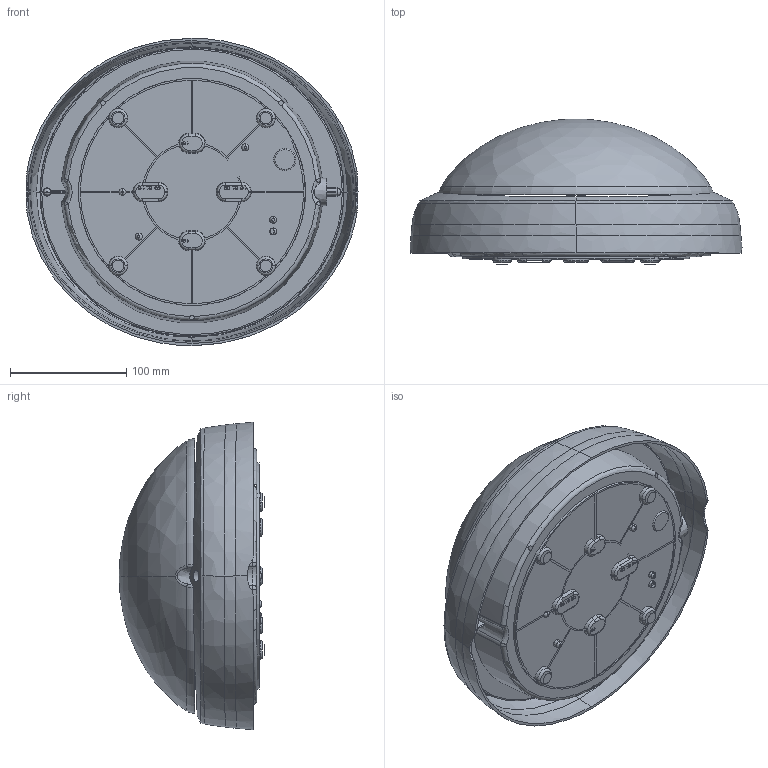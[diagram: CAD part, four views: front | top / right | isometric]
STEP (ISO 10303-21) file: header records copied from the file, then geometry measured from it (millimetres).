
FILE_DESCRIPTION((''),'2;1');
FILE_NAME('AIRY_TONDA_300','2025-07-29T10:00:14',('Minervini'),(''),'CREO PARAMETRIC BY PTC INC, 2025010','CREO PARAMETRIC BY PTC INC, 2025010','');
FILE_SCHEMA(('CONFIG_CONTROL_DESIGN'));
Length unit declared in the file: millimetre
Products named in the file (1): AIRY_TONDA_300
Bounding box: 286.13 x 125.5 x 265 mm (x, y, z)
Surface area: 273038.1 mm2 (no closed solid volume)
Topology: 0 solids, 35 shells, 210 faces, 1119 edges, 916 vertices
Faces by surface type: bspline 79, plane 55, cone 38, torus 27, cylinder 7, revolution 2, extrusion 2
Entity records: 21709 total; most frequent: CARTESIAN_POINT 13976, ORIENTED_EDGE 1454, DIRECTION 1337, EDGE_CURVE 1117, VERTEX_POINT 916, VECTOR 531, LINE 529, AXIS2_PLACEMENT_3D 402
